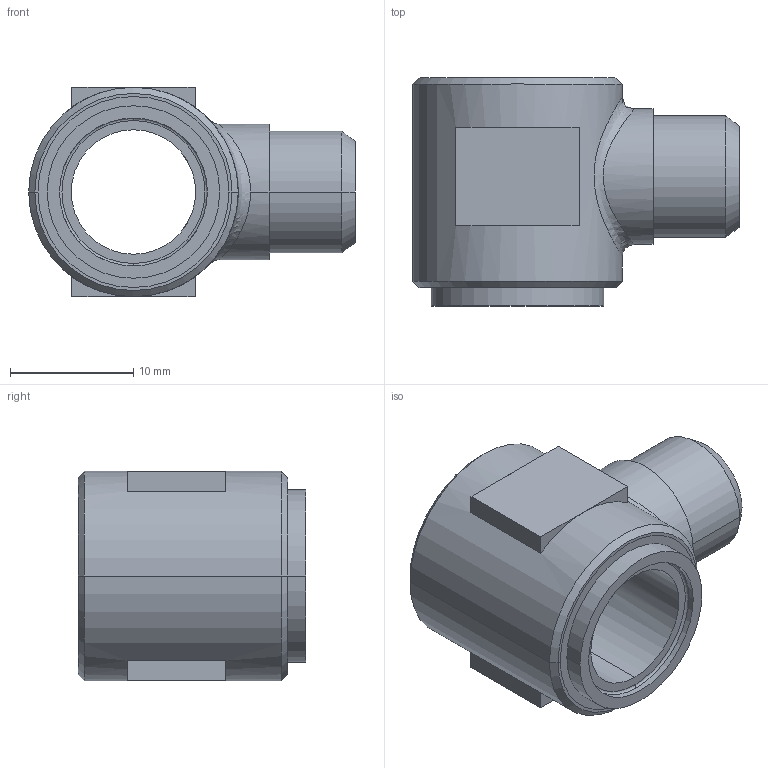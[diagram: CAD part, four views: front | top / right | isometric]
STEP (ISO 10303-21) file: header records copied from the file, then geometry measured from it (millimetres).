
FILE_DESCRIPTION((''),'2;1');
FILE_NAME('101302.stp','2007-10-30T15:43:15',(''),(''),'AutoCAD STEP 2000i','AutoCAD 2000i',', , ');
FILE_SCHEMA(('CONFIG_CONTROL_DESIGN'));
Length unit declared in the file: millimetre
Products named in the file (2): 101302.0; 1094#0
Assembly tree (1 placements, depth 2):
  101302.0
    1094#0
Bounding box: 26.5 x 18.5 x 17 mm (x, y, z)
Volume: 3160.5 mm3; surface area: 2362.2 mm2
Topology: 1 solids, 1 shells, 54 faces, 125 edges, 79 vertices
Faces by surface type: plane 21, cylinder 16, cone 12, bspline 5
Entity records: 2034 total; most frequent: CARTESIAN_POINT 666, DIRECTION 281, ORIENTED_EDGE 250, EDGE_CURVE 125, AXIS2_PLACEMENT_3D 114, VERTEX_POINT 79, EDGE_LOOP 64, CIRCLE 63
